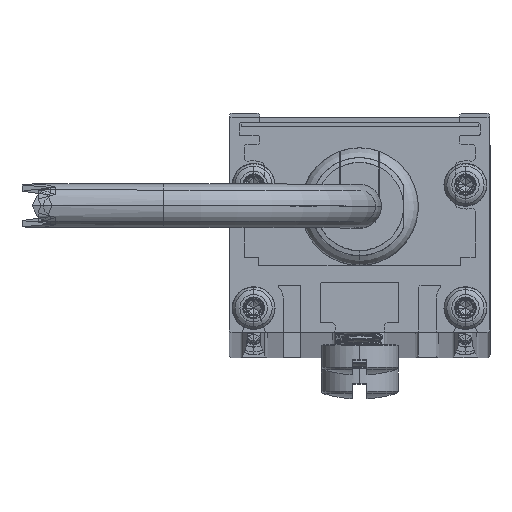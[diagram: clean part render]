
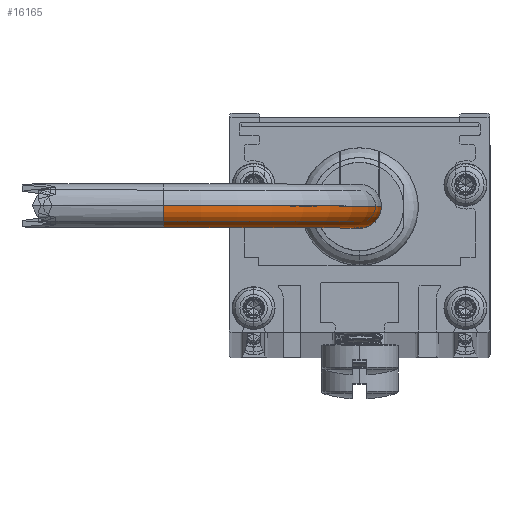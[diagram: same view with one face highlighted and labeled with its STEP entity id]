
A CAD part, top view. The second image highlights one B-rep face of the part: STEP entity #16165.
In plain terms, the highlighted toroidal (fillet/blend) face has major radius 25.4 mm and minor radius 2.845 mm.
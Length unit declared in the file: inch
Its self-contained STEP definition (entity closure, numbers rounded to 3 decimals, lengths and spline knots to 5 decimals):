
#312 = CARTESIAN_POINT ( 'NONE',  ( 1., 0., -1. ) ) ;
#1347 = EDGE_CURVE ( 'NONE', #13984, #2877, #3848, .T. ) ;
#1407 = AXIS2_PLACEMENT_3D ( 'NONE', #16160, #6038, #3284 ) ;
#2324 = CIRCLE ( 'NONE', #4616, 0.888 ) ;
#2870 = CARTESIAN_POINT ( 'NONE',  ( 1., 0., -2. ) ) ;
#2877 = VERTEX_POINT ( 'NONE', #9036 ) ;
#3284 = DIRECTION ( 'NONE',  ( 1., 0., 0. ) ) ;
#3659 = FACE_OUTER_BOUND ( 'NONE', #8332, .T. ) ;
#3848 = CIRCLE ( 'NONE', #1407, 0.112 ) ;
#4616 = AXIS2_PLACEMENT_3D ( 'NONE', #16384, #10750, #9361 ) ;
#5022 = TOROIDAL_SURFACE ( 'NONE', #18451, 1., 0.112 ) ;
#5275 = ORIENTED_EDGE ( 'NONE', *, *, #16387, .F. ) ;
#5293 = DIRECTION ( 'NONE',  ( 0., -1., 0. ) ) ;
#5508 = DIRECTION ( 'NONE',  ( -1., 0., 0. ) ) ;
#5689 = DIRECTION ( 'NONE',  ( 0., 0., 1. ) ) ;
#5902 = CARTESIAN_POINT ( 'NONE',  ( 1., 0., -1.888 ) ) ;
#6038 = DIRECTION ( 'NONE',  ( 0., 0., 1. ) ) ;
#6366 = AXIS2_PLACEMENT_3D ( 'NONE', #312, #16201, #16144 ) ;
#7678 = ORIENTED_EDGE ( 'NONE', *, *, #12885, .T. ) ;
#7991 = CARTESIAN_POINT ( 'NONE',  ( 1., 0., -2.112 ) ) ;
#8233 = CARTESIAN_POINT ( 'NONE',  ( 1., 0., -1. ) ) ;
#8263 = ORIENTED_EDGE ( 'NONE', *, *, #1347, .F. ) ;
#8332 = EDGE_LOOP ( 'NONE', ( #8263, #9378, #7678, #5275 ) ) ;
#9036 = CARTESIAN_POINT ( 'NONE',  ( 0.112, 0., -1. ) ) ;
#9361 = DIRECTION ( 'NONE',  ( 1., 0., 0. ) ) ;
#9378 = ORIENTED_EDGE ( 'NONE', *, *, #16276, .T. ) ;
#9740 = CARTESIAN_POINT ( 'NONE',  ( -0.112, 0., -1. ) ) ;
#9758 = AXIS2_PLACEMENT_3D ( 'NONE', #2870, #5508, #5689 ) ;
#10750 = DIRECTION ( 'NONE',  ( 0., -1., 0. ) ) ;
#12553 = CIRCLE ( 'NONE', #6366, 1.112 ) ;
#12805 = DIRECTION ( 'NONE',  ( 0., 0., -1. ) ) ;
#12885 = EDGE_CURVE ( 'NONE', #13268, #18179, #16268, .T. ) ;
#13268 = VERTEX_POINT ( 'NONE', #7991 ) ;
#13984 = VERTEX_POINT ( 'NONE', #9740 ) ;
#16144 = DIRECTION ( 'NONE',  ( 1., 0., 0. ) ) ;
#16160 = CARTESIAN_POINT ( 'NONE',  ( 0., 0., -1. ) ) ;
#16165 = ADVANCED_FACE ( 'NONE', ( #3659 ), #5022, .T. ) ;
#16201 = DIRECTION ( 'NONE',  ( 0., -1., 0. ) ) ;
#16268 = CIRCLE ( 'NONE', #9758, 0.112 ) ;
#16276 = EDGE_CURVE ( 'NONE', #13984, #13268, #12553, .T. ) ;
#16384 = CARTESIAN_POINT ( 'NONE',  ( 1., 0., -1. ) ) ;
#16387 = EDGE_CURVE ( 'NONE', #2877, #18179, #2324, .T. ) ;
#18179 = VERTEX_POINT ( 'NONE', #5902 ) ;
#18451 = AXIS2_PLACEMENT_3D ( 'NONE', #8233, #5293, #12805 ) ;
